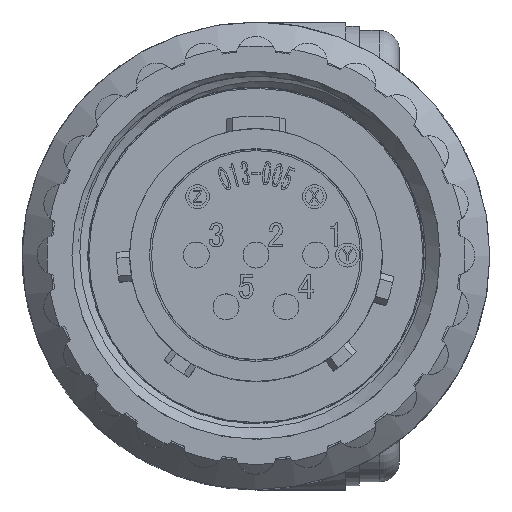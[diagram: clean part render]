
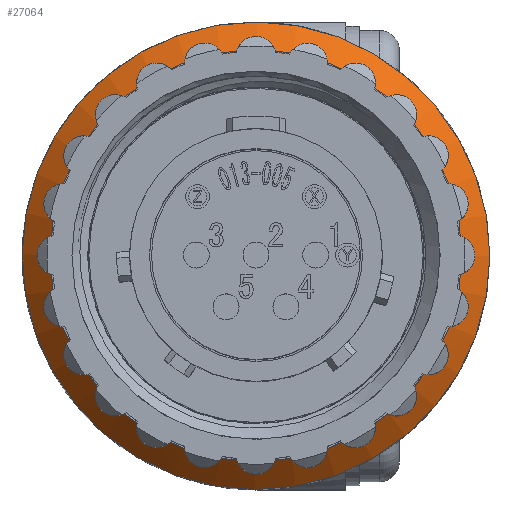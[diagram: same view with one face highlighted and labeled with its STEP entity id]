
A CAD part, top view. The second image highlights one B-rep face of the part: STEP entity #27064.
In plain terms, the highlighted conical face has half-angle 45 degrees and reference radius 11.75 mm.
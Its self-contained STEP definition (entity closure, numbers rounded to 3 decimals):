
#1774 = CARTESIAN_POINT ( 'NONE',  ( 0., 0., -22.1 ) ) ;
#3109 = EDGE_CURVE ( 'NONE', #40642, #40642, #9934, .T. ) ;
#3490 = AXIS2_PLACEMENT_3D ( 'NONE', #11617, #42327, #39343 ) ;
#6242 = CIRCLE ( 'NONE', #43069, 11.75 ) ;
#9934 = CIRCLE ( 'NONE', #14791, 10.35 ) ;
#11617 = CARTESIAN_POINT ( 'NONE',  ( 0., 0., -22.1 ) ) ;
#14489 = FACE_BOUND ( 'NONE', #17666, .T. ) ;
#14791 = AXIS2_PLACEMENT_3D ( 'NONE', #15579, #18446, #15138 ) ;
#15138 = DIRECTION ( 'NONE',  ( 1., 0., 0. ) ) ;
#15579 = CARTESIAN_POINT ( 'NONE',  ( 0., 0., -20.7 ) ) ;
#16478 = EDGE_CURVE ( 'NONE', #39556, #39556, #6242, .T. ) ;
#17666 = EDGE_LOOP ( 'NONE', ( #43030 ) ) ;
#18446 = DIRECTION ( 'NONE',  ( 0., 0., 1. ) ) ;
#18911 = DIRECTION ( 'NONE',  ( 1., 0., 0. ) ) ;
#19102 = CARTESIAN_POINT ( 'NONE',  ( 10.35, 0., -20.7 ) ) ;
#21717 = DIRECTION ( 'NONE',  ( 0., 0., 1. ) ) ;
#23952 = EDGE_LOOP ( 'NONE', ( #39929 ) ) ;
#27064 = ADVANCED_FACE ( 'NONE', ( #27790, #14489 ), #33602, .T. ) ;
#27790 = FACE_OUTER_BOUND ( 'NONE', #23952, .T. ) ;
#33602 = CONICAL_SURFACE ( 'NONE', #3490, 11.75, 0.785 ) ;
#39343 = DIRECTION ( 'NONE',  ( -1., 0., 0. ) ) ;
#39556 = VERTEX_POINT ( 'NONE', #40423 ) ;
#39929 = ORIENTED_EDGE ( 'NONE', *, *, #16478, .T. ) ;
#40423 = CARTESIAN_POINT ( 'NONE',  ( 11.75, 0., -22.1 ) ) ;
#40642 = VERTEX_POINT ( 'NONE', #19102 ) ;
#42327 = DIRECTION ( 'NONE',  ( 0., 0., -1. ) ) ;
#43030 = ORIENTED_EDGE ( 'NONE', *, *, #3109, .F. ) ;
#43069 = AXIS2_PLACEMENT_3D ( 'NONE', #1774, #21717, #18911 ) ;
